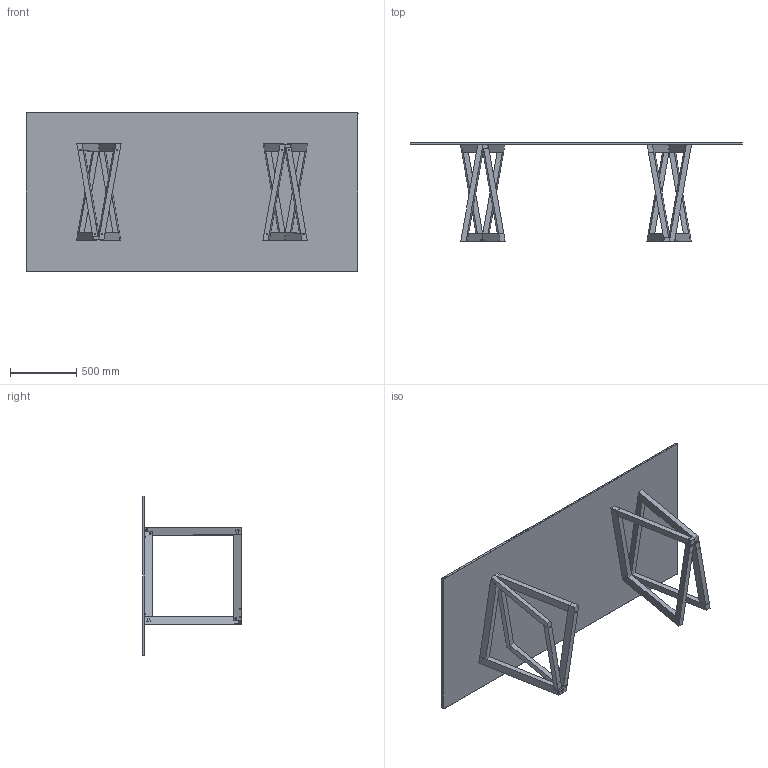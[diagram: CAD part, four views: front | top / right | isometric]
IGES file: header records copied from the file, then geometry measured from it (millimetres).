
Start section: SolidWorks IGES file using analytic representation for surfaces
Global section: file name: C:\Users\Matteo\Desktop\_Horm\Dror\_file tecnici per listino\QuaDror 02\250x120 quadror rettangolare.IGS; native system: SolidWorks 2010; preprocessor: SolidWorks 2010; author: Matteo; date: 151117.120219; units: millimetre
Bounding box: 2500 x 741.03 x 1200 mm (x, y, z)
Surface area: 8342277.2 mm2 (no closed solid volume)
Topology: 0 solids, 0 shells, 382 faces, 7160 edges, 7160 vertices
Faces by surface type: bspline 270, revolution 112
